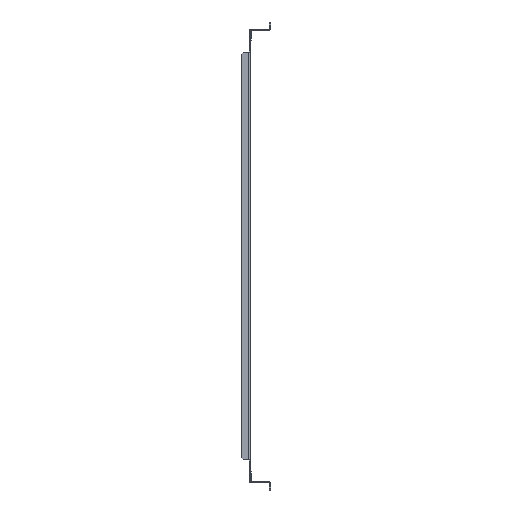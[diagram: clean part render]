
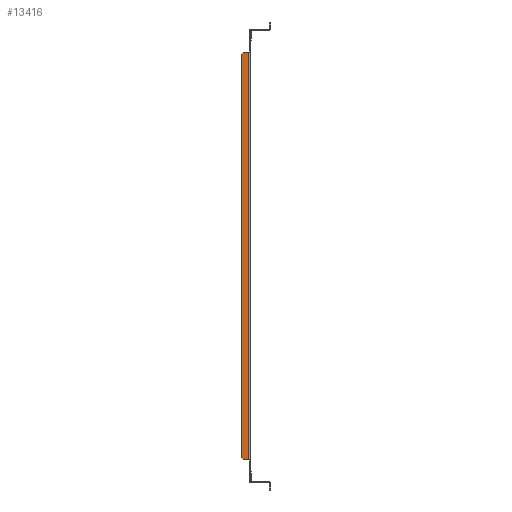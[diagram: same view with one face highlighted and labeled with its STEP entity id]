
A CAD part, left-side view. The second image highlights one B-rep face of the part: STEP entity #13416.
In plain terms, the highlighted planar face has unit normal (-1, 0, 0).
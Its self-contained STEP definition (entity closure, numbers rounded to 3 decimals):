
#11736=CARTESIAN_POINT(' ',(-199.5,9.,314.5));
#11737=VERTEX_POINT(' ',#11736);
#11751=CARTESIAN_POINT(' ',(-199.5,9.,314.5));
#11756=DIRECTION(' ',(0.,-1.,0.));
#11761=VECTOR(' ',#11756,1.);
#11766=LINE('',#11751,#11761);
#11771=CARTESIAN_POINT(' ',(-199.5,0.6,314.5));
#11772=VERTEX_POINT(' ',#11771);
#11776=EDGE_CURVE(' ',#11737,#11772,#11766,.T.);
#11911=CARTESIAN_POINT(' ',(-199.5,0.6,314.5));
#11916=DIRECTION(' ',(0.,0.,-1.));
#11921=VECTOR(' ',#11916,1.);
#11926=LINE('',#11911,#11921);
#11931=CARTESIAN_POINT(' ',(-199.5,0.6,-314.5));
#11932=VERTEX_POINT(' ',#11931);
#11936=EDGE_CURVE(' ',#11772,#11932,#11926,.T.);
#12031=CARTESIAN_POINT(' ',(-199.5,9.,-314.5));
#12036=DIRECTION(' ',(0.,-1.,0.));
#12041=VECTOR(' ',#12036,1.);
#12046=LINE('',#12031,#12041);
#12051=CARTESIAN_POINT(' ',(-199.5,9.,-314.5));
#12052=VERTEX_POINT(' ',#12051);
#12056=EDGE_CURVE(' ',#12052,#11932,#12046,.T.);
#13206=CARTESIAN_POINT(' ',(-199.5,9.,314.5));
#13211=DIRECTION(' ',(0.,0.707,-0.707));
#13216=VECTOR(' ',#13211,1.);
#13221=LINE('',#13206,#13216);
#13226=CARTESIAN_POINT(' ',(-199.5,12.,311.5));
#13227=VERTEX_POINT(' ',#13226);
#13231=EDGE_CURVE(' ',#11737,#13227,#13221,.T.);
#13296=DIRECTION(' ',(-1.,-0.,0.));
#13301=CARTESIAN_POINT(' ',(-199.5,0.6,314.5));
#13306=DIRECTION(' ',(0.,1.,0.));
#13311=AXIS2_PLACEMENT_3D(' ',#13301,#13296,#13306);
#13316=PLANE('NONE',#13311);
#13321=CARTESIAN_POINT(' ',(-199.5,12.,311.5));
#13326=DIRECTION(' ',(0.,0.,-1.));
#13331=VECTOR(' ',#13326,1.);
#13336=LINE('',#13321,#13331);
#13341=CARTESIAN_POINT(' ',(-199.5,12.,-311.5));
#13342=VERTEX_POINT(' ',#13341);
#13346=EDGE_CURVE(' ',#13227,#13342,#13336,.T.);
#13351=ORIENTED_EDGE(' ',*,*,#13346,.T.);
#13356=CARTESIAN_POINT(' ',(-199.5,12.,-311.5));
#13361=DIRECTION(' ',(0.,-0.707,-0.707));
#13366=VECTOR(' ',#13361,1.);
#13371=LINE('',#13356,#13366);
#13376=EDGE_CURVE(' ',#13342,#12052,#13371,.T.);
#13381=ORIENTED_EDGE(' ',*,*,#13376,.T.);
#13386=ORIENTED_EDGE(' ',*,*,#12056,.T.);
#13391=ORIENTED_EDGE(' ',*,*,#11936,.F.);
#13396=ORIENTED_EDGE(' ',*,*,#11776,.F.);
#13401=ORIENTED_EDGE(' ',*,*,#13231,.T.);
#13406=EDGE_LOOP(' ',(#13351,#13381,#13386,#13391,#13396,#13401));
#13411=FACE_OUTER_BOUND(' ',#13406,.T.);
#13416=ADVANCED_FACE('NONE',(#13411),#13316,.T.);
